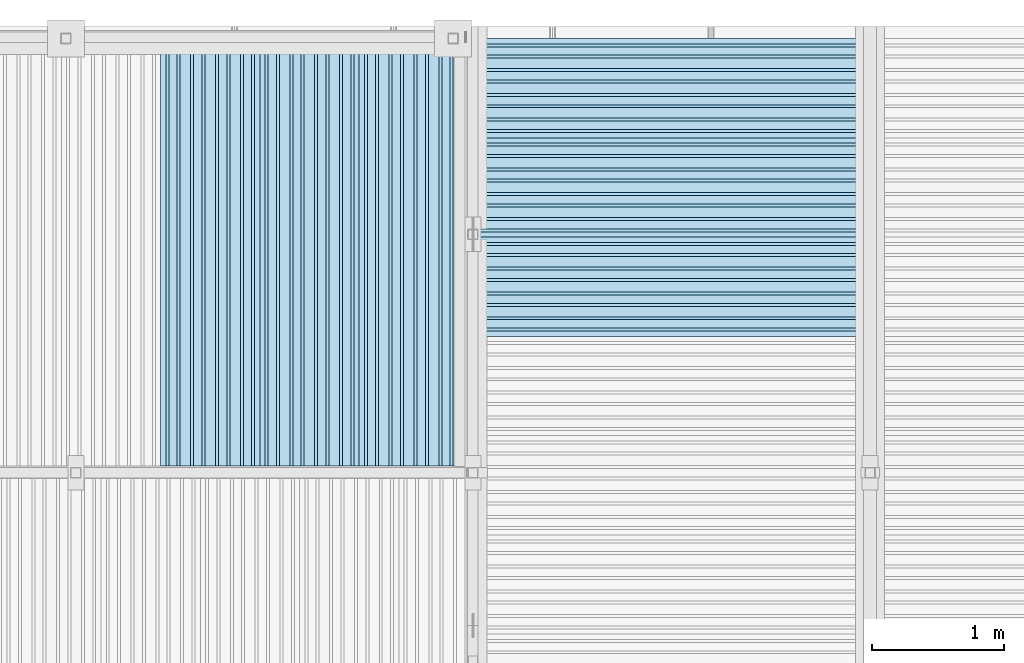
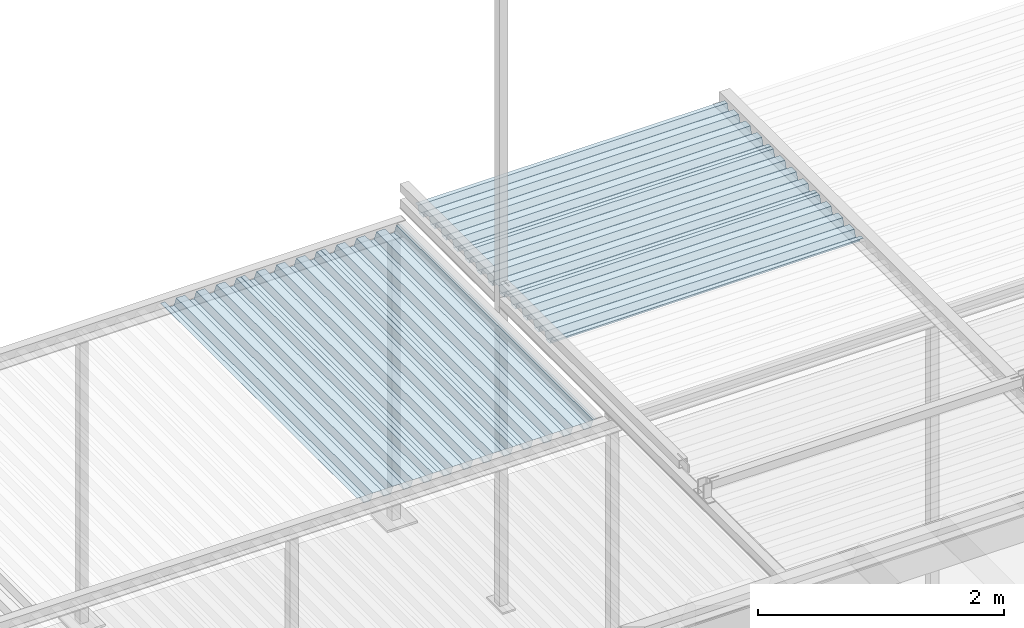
# One storey, part 85 of 98: 6 slabs.
"""IFC2X3 building model written with IfcOpenShell, lengths in millimetres."""

from ifc_helpers import new_model, entity, si_unit, converted_unit, derived_unit, direction, frame, origin_with_axes, place, context, subcontext, project, spatial, faceted_brep, material, type_object, element, save


model = new_model("IFC2X3")

# Units and contexts
model_context = context("Model", 3, precision=0.01, world=frame((0.0, 4.29681676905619e-09, 0.0)), true_north=direction((4.01073788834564e-13, 1.0)))
plan_context = context("Plan", 3, precision=0.01, world=frame((0.0, 4.29681676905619e-09, 0.0)), true_north=direction((4.01073788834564e-13, 1.0)))
body_context = subcontext(model_context, "Body", "Model", "MODEL_VIEW")
ifc_project = project(units=[converted_unit("PLANEANGLEUNIT", "DEGREE", entity("IfcPositiveLengthMeasure", 0.0174532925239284), si_unit("PLANEANGLEUNIT", "RADIAN"), dimensions=[0, 0, 0, 0, 0, 0, 0]), si_unit("AREAUNIT", "SQUARE_METRE"), si_unit("LENGTHUNIT", "METRE", prefix="MILLI"), si_unit("MASSUNIT", "GRAM", prefix="KILO"), si_unit("POWERUNIT", "WATT"), si_unit("PRESSUREUNIT", "PASCAL"), si_unit("FORCEUNIT", "NEWTON", prefix="KILO"), si_unit("ELECTRICCURRENTUNIT", "AMPERE"), si_unit("THERMODYNAMICTEMPERATUREUNIT", "DEGREE_CELSIUS"), si_unit("TIMEUNIT", "SECOND"), si_unit("VOLUMEUNIT", "CUBIC_METRE"), derived_unit("LINEARVELOCITYUNIT", [(si_unit("LENGTHUNIT", "METRE"), 1), (si_unit("TIMEUNIT", "SECOND"), -1)]), derived_unit("VOLUMETRICFLOWRATEUNIT", [(si_unit("VOLUMEUNIT", "CUBIC_METRE"), 1), (si_unit("TIMEUNIT", "SECOND"), -1)]), derived_unit("THERMALTRANSMITTANCEUNIT", [(si_unit("POWERUNIT", "WATT"), 1), (si_unit("THERMODYNAMICTEMPERATUREUNIT", "KELVIN"), -1), (si_unit("AREAUNIT", "SQUARE_METRE"), -1)])], contexts=[model_context, plan_context])

# Site, building, storey
site_placement = place(None, frame((0.0, -4.29681676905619e-09, 0.0), z_axis=(0.0, 0.0, 1.0), x_axis=(1.0, 0.0, 0.0)))
site = spatial("IfcSite", under=ifc_project, at=site_placement, Name="Gardermoen", CompositionType="ELEMENT")
building_placement = place(site_placement, frame((0.0, 4.29681676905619e-09, 0.0), z_axis=(0.0, 0.0, 1.0), x_axis=(1.0, 0.0, 0.0)))
building = spatial("IfcBuilding", under=site, at=building_placement, Name="TS", CompositionType="ELEMENT")
storey_placement = place(building_placement, origin_with_axes())
storey = spatial("IfcBuildingStorey", under=building, at=storey_placement, Name="D", CompositionType="ELEMENT", Elevation=0.0)

# Slabs
ifc_material = material(Name="STEEL/S355")
slab_type = type_object("IfcSlabType", Name="PLANJA70", PredefinedType="NOTDEFINED")
slab_1_placement = place(storey_placement, frame((518015.0, 417549.960071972, 206834.149718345), z_axis=(0.0, 0.0, 1.0), x_axis=(0.0, 1.0, 0.0)))
element("IfcSlab", 1, at=slab_1_placement, inside=storey, type_object=slab_type, material=ifc_material, Name="STÅLTAK", ObjectType="PLANJA70", PredefinedType="FLOOR", context=body_context, shape_type="Brep", body=[
    faceted_brep([(0.0, 375.0, 34.1500015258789), (0.0, 335.299987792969, 34.1500015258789), (3189.99519654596, 335.299987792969, 34.1500015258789), (3189.99519654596, 375.0, 34.1500015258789), (0.0, 313.010681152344, -32.1500015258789), (3189.99519654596, 313.010681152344, -32.1500015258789), (0.0, 249.489303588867, -32.1500015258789), (3189.99519654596, 249.489303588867, -32.1500015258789), (0.0, 227.199996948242, 34.1500015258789), (3189.99519654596, 227.199996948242, 34.1500015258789), (0.0, 147.800003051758, 34.1500015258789), (3189.99519654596, 147.800003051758, 34.1500015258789), (0.0, 125.280120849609, -33.1500015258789), (3189.99519654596, 125.280120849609, -33.1500015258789), (0.0, 62.2198791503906, -33.1500015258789), (3189.99519654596, 62.2198791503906, -33.1500015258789), (0.0, 39.7000007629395, 34.1500015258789), (3189.99519654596, 39.7000007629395, 34.1500015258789), (0.0, -39.7000007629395, 34.1500015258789), (3189.99519654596, -39.7000007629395, 34.1500015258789), (0.0, -62.2198791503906, -33.1500015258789), (3189.99519654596, -62.2198791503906, -33.1500015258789), (0.0, -125.280120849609, -33.1500015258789), (3189.99519654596, -125.280120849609, -33.1500015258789), (0.0, -147.800003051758, 34.1500015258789), (3189.99519654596, -147.800003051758, 34.1500015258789), (0.0, -227.199996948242, 34.1500015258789), (3189.99519654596, -227.199996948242, 34.1500015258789), (0.0, -249.719879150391, -33.1500015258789), (3189.99519654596, -249.719879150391, -33.1500015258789), (0.0, -312.781188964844, -33.1500015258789), (3189.99519654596, -312.781188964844, -33.1500015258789), (0.0, -335.070495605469, 33.1500015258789), (3189.99519654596, -335.070495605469, 33.1500015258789), (0.0, -375.0, 33.1500015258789), (3189.99519654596, -375.0, 33.1500015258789), (0.0, -375.0, 32.1500015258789), (3189.99519654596, -375.0, 32.1500015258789), (0.0, -335.789306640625, 32.1500015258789), (3189.99519654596, -335.789306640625, 32.1500015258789), (0.0, -313.5, -34.1500015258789), (3189.99519654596, -313.5, -34.1500015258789), (0.0, -249.0, -34.1500015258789), (3189.99519654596, -249.0, -34.1500015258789), (0.0, -226.480117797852, 33.1500015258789), (3189.99519654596, -226.480117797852, 33.1500015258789), (0.0, -148.519882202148, 33.1500015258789), (3189.99519654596, -148.519882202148, 33.1500015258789), (0.0, -126.0, -34.1500015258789), (3189.99519654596, -126.0, -34.1500015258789), (0.0, -61.5, -34.1500015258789), (3189.99519654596, -61.5, -34.1500015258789), (0.0, -38.9801177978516, 33.1500015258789), (3189.99519654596, -38.9801177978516, 33.1500015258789), (0.0, 38.9801177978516, 33.1500015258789), (3189.99519654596, 38.9801177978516, 33.1500015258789), (0.0, 61.5, -34.1500015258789), (3189.99519654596, 61.5, -34.1500015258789), (0.0, 126.0, -34.1500015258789), (3189.99519654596, 126.0, -34.1500015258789), (0.0, 148.519882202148, 33.1500015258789), (3189.99519654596, 148.519882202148, 33.1500015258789), (0.0, 226.481185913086, 33.1500015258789), (3189.99519654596, 226.481185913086, 33.1500015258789), (0.0, 248.770492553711, -33.1500015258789), (3189.99519654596, 248.770492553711, -33.1500015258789), (0.0, 313.7294921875, -33.1500015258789), (3189.99519654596, 313.7294921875, -33.1500015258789), (0.0, 336.018798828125, 33.1500015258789), (3189.99519654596, 336.018798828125, 33.1500015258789), (0.0, 375.0, 33.1500015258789), (3189.99519654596, 375.0, 33.1500015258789)], [[[0, 1, 2, 3]], [[1, 4, 5, 2]], [[4, 6, 7, 5]], [[6, 8, 9, 7]], [[8, 10, 11, 9]], [[10, 12, 13, 11]], [[12, 14, 15, 13]], [[14, 16, 17, 15]], [[16, 18, 19, 17]], [[18, 20, 21, 19]], [[20, 22, 23, 21]], [[22, 24, 25, 23]], [[24, 26, 27, 25]], [[26, 28, 29, 27]], [[28, 30, 31, 29]], [[30, 32, 33, 31]], [[32, 34, 35, 33]], [[34, 36, 37, 35]], [[36, 38, 39, 37]], [[38, 40, 41, 39]], [[40, 42, 43, 41]], [[42, 44, 45, 43]], [[44, 46, 47, 45]], [[46, 48, 49, 47]], [[48, 50, 51, 49]], [[50, 52, 53, 51]], [[52, 54, 55, 53]], [[54, 56, 57, 55]], [[56, 58, 59, 57]], [[58, 60, 61, 59]], [[60, 62, 63, 61]], [[62, 64, 65, 63]], [[64, 66, 67, 65]], [[66, 68, 69, 67]], [[68, 70, 71, 69]], [[70, 0, 3, 71]], [[5, 7, 9, 11, 13, 15, 17, 19, 21, 23, 25, 27, 29, 31, 33, 35, 37, 39, 41, 43, 45, 47, 49, 51, 53, 55, 57, 59, 61, 63, 65, 67, 69, 71, 3, 2]], [[70, 68, 66, 64, 62, 60, 58, 56, 54, 52, 50, 48, 46, 44, 42, 40, 38, 36, 34, 32, 30, 28, 26, 24, 22, 20, 18, 16, 14, 12, 10, 8, 6, 4, 1, 0]]]),
])
slab_2_placement = place(storey_placement, frame((518765.0, 417549.960071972, 206834.149718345), z_axis=(0.0, 0.0, 1.0), x_axis=(0.0, 1.0, 0.0)))
element("IfcSlab", 2, at=slab_2_placement, inside=storey, type_object=slab_type, material=ifc_material, Name="STÅLTAK", ObjectType="PLANJA70", PredefinedType="FLOOR", context=body_context, shape_type="Brep", body=[
    faceted_brep([(0.0, 375.0, 34.1500015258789), (0.0, 335.299987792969, 34.1500015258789), (3189.99519654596, 335.299987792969, 34.1500015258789), (3189.99519654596, 375.0, 34.1500015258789), (0.0, 313.010681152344, -32.1500015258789), (3189.99519654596, 313.010681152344, -32.1500015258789), (0.0, 249.489303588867, -32.1500015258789), (3189.99519654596, 249.489303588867, -32.1500015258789), (0.0, 227.199996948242, 34.1500015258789), (3189.99519654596, 227.199996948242, 34.1500015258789), (0.0, 147.800003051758, 34.1500015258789), (3189.99519654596, 147.800003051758, 34.1500015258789), (0.0, 125.280120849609, -33.1500015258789), (3189.99519654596, 125.280120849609, -33.1500015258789), (0.0, 62.2198791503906, -33.1500015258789), (3189.99519654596, 62.2198791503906, -33.1500015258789), (0.0, 39.7000007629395, 34.1500015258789), (3189.99519654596, 39.7000007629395, 34.1500015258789), (0.0, -39.7000007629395, 34.1500015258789), (3189.99519654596, -39.7000007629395, 34.1500015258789), (0.0, -62.2198791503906, -33.1500015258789), (3189.99519654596, -62.2198791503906, -33.1500015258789), (0.0, -125.280120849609, -33.1500015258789), (3189.99519654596, -125.280120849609, -33.1500015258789), (0.0, -147.800003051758, 34.1500015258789), (3189.99519654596, -147.800003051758, 34.1500015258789), (0.0, -227.199996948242, 34.1500015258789), (3189.99519654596, -227.199996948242, 34.1500015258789), (0.0, -249.719879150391, -33.1500015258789), (3189.99519654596, -249.719879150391, -33.1500015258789), (0.0, -312.781188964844, -33.1500015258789), (3189.99519654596, -312.781188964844, -33.1500015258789), (0.0, -335.070495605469, 33.1500015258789), (3189.99519654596, -335.070495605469, 33.1500015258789), (0.0, -375.0, 33.1500015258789), (3189.99519654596, -375.0, 33.1500015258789), (0.0, -375.0, 32.1500015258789), (3189.99519654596, -375.0, 32.1500015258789), (0.0, -335.789306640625, 32.1500015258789), (3189.99519654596, -335.789306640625, 32.1500015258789), (0.0, -313.5, -34.1500015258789), (3189.99519654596, -313.5, -34.1500015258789), (0.0, -249.0, -34.1500015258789), (3189.99519654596, -249.0, -34.1500015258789), (0.0, -226.480117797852, 33.1500015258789), (3189.99519654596, -226.480117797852, 33.1500015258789), (0.0, -148.519882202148, 33.1500015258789), (3189.99519654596, -148.519882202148, 33.1500015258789), (0.0, -126.0, -34.1500015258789), (3189.99519654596, -126.0, -34.1500015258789), (0.0, -61.5, -34.1500015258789), (3189.99519654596, -61.5, -34.1500015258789), (0.0, -38.9801177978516, 33.1500015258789), (3189.99519654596, -38.9801177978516, 33.1500015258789), (0.0, 38.9801177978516, 33.1500015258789), (3189.99519654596, 38.9801177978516, 33.1500015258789), (0.0, 61.5, -34.1500015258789), (3189.99519654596, 61.5, -34.1500015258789), (0.0, 126.0, -34.1500015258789), (3189.99519654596, 126.0, -34.1500015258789), (0.0, 148.519882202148, 33.1500015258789), (3189.99519654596, 148.519882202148, 33.1500015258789), (0.0, 226.481185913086, 33.1500015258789), (3189.99519654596, 226.481185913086, 33.1500015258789), (0.0, 248.770492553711, -33.1500015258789), (3189.99519654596, 248.770492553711, -33.1500015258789), (0.0, 313.7294921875, -33.1500015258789), (3189.99519654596, 313.7294921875, -33.1500015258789), (0.0, 336.018798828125, 33.1500015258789), (3189.99519654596, 336.018798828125, 33.1500015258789), (0.0, 375.0, 33.1500015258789), (3189.99519654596, 375.0, 33.1500015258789)], [[[0, 1, 2, 3]], [[1, 4, 5, 2]], [[4, 6, 7, 5]], [[6, 8, 9, 7]], [[8, 10, 11, 9]], [[10, 12, 13, 11]], [[12, 14, 15, 13]], [[14, 16, 17, 15]], [[16, 18, 19, 17]], [[18, 20, 21, 19]], [[20, 22, 23, 21]], [[22, 24, 25, 23]], [[24, 26, 27, 25]], [[26, 28, 29, 27]], [[28, 30, 31, 29]], [[30, 32, 33, 31]], [[32, 34, 35, 33]], [[34, 36, 37, 35]], [[36, 38, 39, 37]], [[38, 40, 41, 39]], [[40, 42, 43, 41]], [[42, 44, 45, 43]], [[44, 46, 47, 45]], [[46, 48, 49, 47]], [[48, 50, 51, 49]], [[50, 52, 53, 51]], [[52, 54, 55, 53]], [[54, 56, 57, 55]], [[56, 58, 59, 57]], [[58, 60, 61, 59]], [[60, 62, 63, 61]], [[62, 64, 65, 63]], [[64, 66, 67, 65]], [[66, 68, 69, 67]], [[68, 70, 71, 69]], [[70, 0, 3, 71]], [[5, 7, 9, 11, 13, 15, 17, 19, 21, 23, 25, 27, 29, 31, 33, 35, 37, 39, 41, 43, 45, 47, 49, 51, 53, 55, 57, 59, 61, 63, 65, 67, 69, 71, 3, 2]], [[70, 68, 66, 64, 62, 60, 58, 56, 54, 52, 50, 48, 46, 44, 42, 40, 38, 36, 34, 32, 30, 28, 26, 24, 22, 20, 18, 16, 14, 12, 10, 8, 6, 4, 1, 0]]]),
])
slab_3_placement = place(storey_placement, frame((519515.0, 417549.960071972, 206834.149718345), z_axis=(0.0, 0.0, 1.0), x_axis=(0.0, 1.0, 0.0)))
element("IfcSlab", 3, at=slab_3_placement, inside=storey, type_object=slab_type, material=ifc_material, Name="STÅLTAK", ObjectType="PLANJA70", PredefinedType="FLOOR", context=body_context, shape_type="Brep", body=[
    faceted_brep([(0.0, 375.0, 34.1500015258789), (0.0, 335.299987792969, 34.1500015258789), (3189.99519654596, 335.299987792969, 34.1500015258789), (3189.99519654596, 375.0, 34.1500015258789), (0.0, 313.010681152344, -32.1500015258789), (3189.99519654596, 313.010681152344, -32.1500015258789), (0.0, 249.489303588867, -32.1500015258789), (3189.99519654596, 249.489303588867, -32.1500015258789), (0.0, 227.199996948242, 34.1500015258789), (3189.99519654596, 227.199996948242, 34.1500015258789), (0.0, 147.800003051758, 34.1500015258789), (3189.99519654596, 147.800003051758, 34.1500015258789), (0.0, 125.280120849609, -33.1500015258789), (3189.99519654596, 125.280120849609, -33.1500015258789), (0.0, 62.2198791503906, -33.1500015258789), (3189.99519654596, 62.2198791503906, -33.1500015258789), (0.0, 39.7000007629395, 34.1500015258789), (3189.99519654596, 39.7000007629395, 34.1500015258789), (0.0, -39.7000007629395, 34.1500015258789), (3189.99519654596, -39.7000007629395, 34.1500015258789), (0.0, -62.2198791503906, -33.1500015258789), (3189.99519654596, -62.2198791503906, -33.1500015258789), (0.0, -125.280120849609, -33.1500015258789), (3189.99519654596, -125.280120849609, -33.1500015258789), (0.0, -147.800003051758, 34.1500015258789), (3189.99519654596, -147.800003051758, 34.1500015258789), (0.0, -227.199996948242, 34.1500015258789), (3189.99519654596, -227.199996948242, 34.1500015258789), (0.0, -249.719879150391, -33.1500015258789), (3189.99519654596, -249.719879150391, -33.1500015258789), (0.0, -312.781188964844, -33.1500015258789), (3189.99519654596, -312.781188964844, -33.1500015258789), (0.0, -335.070495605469, 33.1500015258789), (3189.99519654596, -335.070495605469, 33.1500015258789), (0.0, -375.0, 33.1500015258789), (3189.99519654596, -375.0, 33.1500015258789), (0.0, -375.0, 32.1500015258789), (3189.99519654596, -375.0, 32.1500015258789), (0.0, -335.789306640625, 32.1500015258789), (3189.99519654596, -335.789306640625, 32.1500015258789), (0.0, -313.5, -34.1500015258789), (3189.99519654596, -313.5, -34.1500015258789), (0.0, -249.0, -34.1500015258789), (3189.99519654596, -249.0, -34.1500015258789), (0.0, -226.480117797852, 33.1500015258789), (3189.99519654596, -226.480117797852, 33.1500015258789), (0.0, -148.519882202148, 33.1500015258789), (3189.99519654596, -148.519882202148, 33.1500015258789), (0.0, -126.0, -34.1500015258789), (3189.99519654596, -126.0, -34.1500015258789), (0.0, -61.5, -34.1500015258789), (3189.99519654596, -61.5, -34.1500015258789), (0.0, -38.9801177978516, 33.1500015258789), (3189.99519654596, -38.9801177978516, 33.1500015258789), (0.0, 38.9801177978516, 33.1500015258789), (3189.99519654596, 38.9801177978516, 33.1500015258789), (0.0, 61.5, -34.1500015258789), (3189.99519654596, 61.5, -34.1500015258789), (0.0, 126.0, -34.1500015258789), (3189.99519654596, 126.0, -34.1500015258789), (0.0, 148.519882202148, 33.1500015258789), (3189.99519654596, 148.519882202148, 33.1500015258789), (0.0, 226.481185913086, 33.1500015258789), (3189.99519654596, 226.481185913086, 33.1500015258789), (0.0, 248.770492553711, -33.1500015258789), (3189.99519654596, 248.770492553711, -33.1500015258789), (0.0, 313.7294921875, -33.1500015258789), (3189.99519654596, 313.7294921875, -33.1500015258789), (0.0, 336.018798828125, 33.1500015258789), (3189.99519654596, 336.018798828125, 33.1500015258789), (0.0, 375.0, 33.1500015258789), (3189.99519654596, 375.0, 33.1500015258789)], [[[0, 1, 2, 3]], [[1, 4, 5, 2]], [[4, 6, 7, 5]], [[6, 8, 9, 7]], [[8, 10, 11, 9]], [[10, 12, 13, 11]], [[12, 14, 15, 13]], [[14, 16, 17, 15]], [[16, 18, 19, 17]], [[18, 20, 21, 19]], [[20, 22, 23, 21]], [[22, 24, 25, 23]], [[24, 26, 27, 25]], [[26, 28, 29, 27]], [[28, 30, 31, 29]], [[30, 32, 33, 31]], [[32, 34, 35, 33]], [[34, 36, 37, 35]], [[36, 38, 39, 37]], [[38, 40, 41, 39]], [[40, 42, 43, 41]], [[42, 44, 45, 43]], [[44, 46, 47, 45]], [[46, 48, 49, 47]], [[48, 50, 51, 49]], [[50, 52, 53, 51]], [[52, 54, 55, 53]], [[54, 56, 57, 55]], [[56, 58, 59, 57]], [[58, 60, 61, 59]], [[60, 62, 63, 61]], [[62, 64, 65, 63]], [[64, 66, 67, 65]], [[66, 68, 69, 67]], [[68, 70, 71, 69]], [[70, 0, 3, 71]], [[5, 7, 9, 11, 13, 15, 17, 19, 21, 23, 25, 27, 29, 31, 33, 35, 37, 39, 41, 43, 45, 47, 49, 51, 53, 55, 57, 59, 61, 63, 65, 67, 69, 71, 3, 2]], [[70, 68, 66, 64, 62, 60, 58, 56, 54, 52, 50, 48, 46, 44, 42, 40, 38, 36, 34, 32, 30, 28, 26, 24, 22, 20, 18, 16, 14, 12, 10, 8, 6, 4, 1, 0]]]),
])
slab_4_placement = place(storey_placement, frame((522950.000000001, 418904.996695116, 206958.849718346), z_axis=(0.0, 0.0, 1.0), x_axis=(-0.999999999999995, -9.99999902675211e-08, 0.0)))
element("IfcSlab", 4, at=slab_4_placement, inside=storey, type_object=slab_type, material=ifc_material, Name="STÅLTAK", ObjectType="PLANJA70", PredefinedType="FLOOR", context=body_context, shape_type="Brep", body=[
    faceted_brep([(0.0, 375.0, 34.1500015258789), (0.0, 335.299987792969, 34.1500015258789), (2900.00079747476, 335.299987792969, 34.1500015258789), (2900.00079747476, 375.0, 34.1500015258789), (0.0, 313.010681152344, -32.1500015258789), (2900.00079747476, 313.010681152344, -32.1500015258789), (0.0, 249.489303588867, -32.1500015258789), (2900.00079747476, 249.489303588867, -32.1500015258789), (0.0, 227.199996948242, 34.1500015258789), (2900.00079747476, 227.199996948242, 34.1500015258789), (0.0, 147.800003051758, 34.1500015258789), (2900.00079747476, 147.800003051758, 34.1500015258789), (0.0, 125.280120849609, -33.1500015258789), (2900.00079747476, 125.280120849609, -33.1500015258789), (0.0, 62.2198791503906, -33.1500015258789), (2900.00079747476, 62.2198791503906, -33.1500015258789), (0.0, 39.7000007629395, 34.1500015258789), (2900.00079747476, 39.7000007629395, 34.1500015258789), (0.0, -39.7000007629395, 34.1500015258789), (2900.00079747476, -39.7000007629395, 34.1500015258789), (0.0, -62.2198791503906, -33.1500015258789), (2900.00079747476, -62.2198791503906, -33.1500015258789), (0.0, -125.280120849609, -33.1500015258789), (2900.00079747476, -125.280120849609, -33.1500015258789), (0.0, -147.800003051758, 34.1500015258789), (2900.00079747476, -147.800003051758, 34.1500015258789), (0.0, -227.199996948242, 34.1500015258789), (2900.00079747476, -227.199996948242, 34.1500015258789), (0.0, -249.719879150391, -33.1500015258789), (2900.00079747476, -249.719879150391, -33.1500015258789), (0.0, -312.781188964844, -33.1500015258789), (2900.00079747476, -312.781188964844, -33.1500015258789), (0.0, -335.070495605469, 33.1500015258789), (2900.00079747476, -335.070495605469, 33.1500015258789), (0.0, -375.0, 33.1500015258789), (2900.00079747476, -375.0, 33.1500015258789), (0.0, -375.0, 32.1500015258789), (2900.00079747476, -375.0, 32.1500015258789), (0.0, -335.789306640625, 32.1500015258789), (2900.00079747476, -335.789306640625, 32.1500015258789), (0.0, -313.5, -34.1500015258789), (2900.00079747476, -313.5, -34.1500015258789), (0.0, -249.0, -34.1500015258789), (2900.00079747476, -249.0, -34.1500015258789), (0.0, -226.480117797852, 33.1500015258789), (2900.00079747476, -226.480117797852, 33.1500015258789), (0.0, -148.519882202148, 33.1500015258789), (2900.00079747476, -148.519882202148, 33.1500015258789), (0.0, -126.0, -34.1500015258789), (2900.00079747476, -126.0, -34.1500015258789), (0.0, -61.5, -34.1500015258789), (2900.00079747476, -61.5, -34.1500015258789), (0.0, -38.9801177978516, 33.1500015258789), (2900.00079747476, -38.9801177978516, 33.1500015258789), (0.0, 38.9801177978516, 33.1500015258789), (2900.00079747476, 38.9801177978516, 33.1500015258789), (0.0, 61.5, -34.1500015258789), (2900.00079747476, 61.5, -34.1500015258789), (0.0, 126.0, -34.1500015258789), (2900.00079747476, 126.0, -34.1500015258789), (0.0, 148.519882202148, 33.1500015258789), (2900.00079747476, 148.519882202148, 33.1500015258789), (0.0, 226.481185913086, 33.1500015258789), (2900.00079747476, 226.481185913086, 33.1500015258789), (0.0, 248.770492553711, -33.1500015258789), (2900.00079747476, 248.770492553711, -33.1500015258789), (0.0, 313.7294921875, -33.1500015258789), (2900.00079747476, 313.7294921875, -33.1500015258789), (0.0, 336.018798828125, 33.1500015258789), (2900.00079747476, 336.018798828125, 33.1500015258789), (0.0, 375.0, 33.1500015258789), (2900.00079747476, 375.0, 33.1500015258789)], [[[0, 1, 2, 3]], [[1, 4, 5, 2]], [[4, 6, 7, 5]], [[6, 8, 9, 7]], [[8, 10, 11, 9]], [[10, 12, 13, 11]], [[12, 14, 15, 13]], [[14, 16, 17, 15]], [[16, 18, 19, 17]], [[18, 20, 21, 19]], [[22, 23, 21, 20]], [[22, 24, 25, 23]], [[24, 26, 27, 25]], [[26, 28, 29, 27]], [[28, 30, 31, 29]], [[30, 32, 33, 31]], [[32, 34, 35, 33]], [[34, 36, 37, 35]], [[36, 38, 39, 37]], [[38, 40, 41, 39]], [[40, 42, 43, 41]], [[42, 44, 45, 43]], [[44, 46, 47, 45]], [[46, 48, 49, 47]], [[48, 50, 51, 49]], [[50, 52, 53, 51]], [[52, 54, 55, 53]], [[54, 56, 57, 55]], [[56, 58, 59, 57]], [[58, 60, 61, 59]], [[60, 62, 63, 61]], [[62, 64, 65, 63]], [[64, 66, 67, 65]], [[66, 68, 69, 67]], [[68, 70, 71, 69]], [[70, 0, 3, 71]], [[5, 7, 9, 11, 13, 15, 17, 19, 21, 23, 25, 27, 29, 31, 33, 35, 37, 39, 41, 43, 45, 47, 49, 51, 53, 55, 57, 59, 61, 63, 65, 67, 69, 71, 3, 2]], [[70, 68, 66, 64, 62, 60, 58, 56, 54, 52, 50, 48, 46, 44, 42, 40, 38, 36, 34, 32, 30, 28, 26, 24, 22, 20, 18, 16, 14, 12, 10, 8, 6, 4, 1, 0]]]),
])
slab_5_placement = place(storey_placement, frame((522950.000000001, 419654.996695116, 206958.849718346), z_axis=(0.0, 0.0, 1.0), x_axis=(-0.999999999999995, -9.99999902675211e-08, 0.0)))
element("IfcSlab", 5, at=slab_5_placement, inside=storey, type_object=slab_type, material=ifc_material, Name="STÅLTAK", ObjectType="PLANJA70", PredefinedType="FLOOR", context=body_context, shape_type="Brep", body=[
    faceted_brep([(0.0, 375.0, 34.1500015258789), (0.0, 335.299987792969, 34.1500015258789), (2900.00079747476, 335.299987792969, 34.1500015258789), (2900.00079747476, 375.0, 34.1500015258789), (0.0, 313.010681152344, -32.1500015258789), (2900.00079747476, 313.010681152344, -32.1500015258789), (0.0, 249.489303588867, -32.1500015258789), (2900.00079747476, 249.489303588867, -32.1500015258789), (0.0, 227.199996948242, 34.1500015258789), (2900.00079747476, 227.199996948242, 34.1500015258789), (0.0, 147.800003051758, 34.1500015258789), (2900.00079747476, 147.800003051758, 34.1500015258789), (0.0, 125.280120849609, -33.1500015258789), (2900.00079747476, 125.280120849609, -33.1500015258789), (0.0, 62.2198791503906, -33.1500015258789), (2900.00079747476, 62.2198791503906, -33.1500015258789), (0.0, 39.7000007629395, 34.1500015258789), (2900.00079747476, 39.7000007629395, 34.1500015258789), (0.0, -39.7000007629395, 34.1500015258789), (2900.00079747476, -39.7000007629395, 34.1500015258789), (0.0, -62.2198791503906, -33.1500015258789), (2900.00079747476, -62.2198791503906, -33.1500015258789), (0.0, -125.280120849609, -33.1500015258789), (2900.00079747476, -125.280120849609, -33.1500015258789), (0.0, -147.800003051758, 34.1500015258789), (2900.00079747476, -147.800003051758, 34.1500015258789), (0.0, -227.199996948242, 34.1500015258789), (2900.00079747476, -227.199996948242, 34.1500015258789), (0.0, -249.719879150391, -33.1500015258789), (2900.00079747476, -249.719879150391, -33.1500015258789), (0.0, -312.781188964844, -33.1500015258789), (2900.00079747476, -312.781188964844, -33.1500015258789), (0.0, -335.070495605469, 33.1500015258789), (2900.00079747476, -335.070495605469, 33.1500015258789), (0.0, -375.0, 33.1500015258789), (2900.00079747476, -375.0, 33.1500015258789), (0.0, -375.0, 32.1500015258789), (2900.00079747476, -375.0, 32.1500015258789), (0.0, -335.789306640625, 32.1500015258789), (2900.00079747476, -335.789306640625, 32.1500015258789), (0.0, -313.5, -34.1500015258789), (2900.00079747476, -313.5, -34.1500015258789), (0.0, -249.0, -34.1500015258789), (2900.00079747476, -249.0, -34.1500015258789), (0.0, -226.480117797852, 33.1500015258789), (2900.00079747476, -226.480117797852, 33.1500015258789), (0.0, -148.519882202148, 33.1500015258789), (2900.00079747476, -148.519882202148, 33.1500015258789), (0.0, -126.0, -34.1500015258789), (2900.00079747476, -126.0, -34.1500015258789), (0.0, -61.5, -34.1500015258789), (2900.00079747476, -61.5, -34.1500015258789), (0.0, -38.9801177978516, 33.1500015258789), (2900.00079747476, -38.9801177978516, 33.1500015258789), (0.0, 38.9801177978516, 33.1500015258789), (2900.00079747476, 38.9801177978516, 33.1500015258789), (0.0, 61.5, -34.1500015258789), (2900.00079747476, 61.5, -34.1500015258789), (0.0, 126.0, -34.1500015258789), (2900.00079747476, 126.0, -34.1500015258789), (0.0, 148.519882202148, 33.1500015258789), (2900.00079747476, 148.519882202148, 33.1500015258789), (0.0, 226.481185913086, 33.1500015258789), (2900.00079747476, 226.481185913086, 33.1500015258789), (0.0, 248.770492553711, -33.1500015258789), (2900.00079747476, 248.770492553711, -33.1500015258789), (0.0, 313.7294921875, -33.1500015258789), (2900.00079747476, 313.7294921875, -33.1500015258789), (0.0, 336.018798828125, 33.1500015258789), (2900.00079747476, 336.018798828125, 33.1500015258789), (0.0, 375.0, 33.1500015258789), (2900.00079747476, 375.0, 33.1500015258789)], [[[0, 1, 2, 3]], [[1, 4, 5, 2]], [[4, 6, 7, 5]], [[6, 8, 9, 7]], [[8, 10, 11, 9]], [[10, 12, 13, 11]], [[12, 14, 15, 13]], [[14, 16, 17, 15]], [[16, 18, 19, 17]], [[18, 20, 21, 19]], [[22, 23, 21, 20]], [[22, 24, 25, 23]], [[24, 26, 27, 25]], [[26, 28, 29, 27]], [[28, 30, 31, 29]], [[30, 32, 33, 31]], [[32, 34, 35, 33]], [[34, 36, 37, 35]], [[36, 38, 39, 37]], [[38, 40, 41, 39]], [[40, 42, 43, 41]], [[42, 44, 45, 43]], [[44, 46, 47, 45]], [[46, 48, 49, 47]], [[48, 50, 51, 49]], [[50, 52, 53, 51]], [[52, 54, 55, 53]], [[54, 56, 57, 55]], [[56, 58, 59, 57]], [[58, 60, 61, 59]], [[60, 62, 63, 61]], [[62, 64, 65, 63]], [[64, 66, 67, 65]], [[66, 68, 69, 67]], [[68, 70, 71, 69]], [[70, 0, 3, 71]], [[5, 7, 9, 11, 13, 15, 17, 19, 21, 23, 25, 27, 29, 31, 33, 35, 37, 39, 41, 43, 45, 47, 49, 51, 53, 55, 57, 59, 61, 63, 65, 67, 69, 71, 3, 2]], [[70, 68, 66, 64, 62, 60, 58, 56, 54, 52, 50, 48, 46, 44, 42, 40, 38, 36, 34, 32, 30, 28, 26, 24, 22, 20, 18, 16, 14, 12, 10, 8, 6, 4, 1, 0]]]),
])
slab_6_placement = place(storey_placement, frame((522950.000000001, 420404.996695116, 206958.849718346), z_axis=(0.0, 0.0, 1.0), x_axis=(-0.999999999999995, -9.99999902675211e-08, 0.0)))
element("IfcSlab", 6, at=slab_6_placement, inside=storey, type_object=slab_type, material=ifc_material, Name="STÅLTAK", ObjectType="PLANJA70", PredefinedType="FLOOR", context=body_context, shape_type="Brep", body=[
    faceted_brep([(0.0, 375.0, 34.1500015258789), (0.0, 335.299987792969, 34.1500015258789), (2900.00079747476, 335.299987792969, 34.1500015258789), (2900.00079747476, 375.0, 34.1500015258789), (0.0, 313.010681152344, -32.1500015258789), (2900.00079747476, 313.010681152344, -32.1500015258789), (0.0, 249.489303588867, -32.1500015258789), (2900.00079747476, 249.489303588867, -32.1500015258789), (0.0, 227.199996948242, 34.1500015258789), (2900.00079747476, 227.199996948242, 34.1500015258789), (0.0, 147.800003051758, 34.1500015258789), (2900.00079747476, 147.800003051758, 34.1500015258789), (0.0, 125.280120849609, -33.1500015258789), (2900.00079747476, 125.280120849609, -33.1500015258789), (0.0, 62.2198791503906, -33.1500015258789), (2900.00079747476, 62.2198791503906, -33.1500015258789), (0.0, 39.7000007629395, 34.1500015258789), (2900.00079747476, 39.7000007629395, 34.1500015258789), (0.0, -39.7000007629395, 34.1500015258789), (2900.00079747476, -39.7000007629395, 34.1500015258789), (0.0, -62.2198791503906, -33.1500015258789), (2900.00079747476, -62.2198791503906, -33.1500015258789), (0.0, -125.280120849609, -33.1500015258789), (2900.00079747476, -125.280120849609, -33.1500015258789), (0.0, -147.800003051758, 34.1500015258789), (2900.00079747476, -147.800003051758, 34.1500015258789), (0.0, -227.199996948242, 34.1500015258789), (2900.00079747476, -227.199996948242, 34.1500015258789), (0.0, -249.719879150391, -33.1500015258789), (2900.00079747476, -249.719879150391, -33.1500015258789), (0.0, -312.781188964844, -33.1500015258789), (2900.00079747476, -312.781188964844, -33.1500015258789), (0.0, -335.070495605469, 33.1500015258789), (2900.00079747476, -335.070495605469, 33.1500015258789), (0.0, -375.0, 33.1500015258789), (2900.00079747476, -375.0, 33.1500015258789), (0.0, -375.0, 32.1500015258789), (2900.00079747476, -375.0, 32.1500015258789), (0.0, -335.789306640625, 32.1500015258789), (2900.00079747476, -335.789306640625, 32.1500015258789), (0.0, -313.5, -34.1500015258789), (2900.00079747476, -313.5, -34.1500015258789), (0.0, -249.0, -34.1500015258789), (2900.00079747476, -249.0, -34.1500015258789), (0.0, -226.480117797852, 33.1500015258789), (2900.00079747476, -226.480117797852, 33.1500015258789), (0.0, -148.519882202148, 33.1500015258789), (2900.00079747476, -148.519882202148, 33.1500015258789), (0.0, -126.0, -34.1500015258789), (2900.00079747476, -126.0, -34.1500015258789), (0.0, -61.5, -34.1500015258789), (2900.00079747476, -61.5, -34.1500015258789), (0.0, -38.9801177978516, 33.1500015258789), (2900.00079747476, -38.9801177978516, 33.1500015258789), (0.0, 38.9801177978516, 33.1500015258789), (2900.00079747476, 38.9801177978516, 33.1500015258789), (0.0, 61.5, -34.1500015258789), (2900.00079747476, 61.5, -34.1500015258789), (0.0, 126.0, -34.1500015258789), (2900.00079747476, 126.0, -34.1500015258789), (0.0, 148.519882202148, 33.1500015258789), (2900.00079747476, 148.519882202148, 33.1500015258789), (0.0, 226.481185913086, 33.1500015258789), (2900.00079747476, 226.481185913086, 33.1500015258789), (0.0, 248.770492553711, -33.1500015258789), (2900.00079747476, 248.770492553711, -33.1500015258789), (0.0, 313.7294921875, -33.1500015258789), (2900.00079747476, 313.7294921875, -33.1500015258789), (0.0, 336.018798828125, 33.1500015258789), (2900.00079747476, 336.018798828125, 33.1500015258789), (0.0, 375.0, 33.1500015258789), (2900.00079747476, 375.0, 33.1500015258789)], [[[0, 1, 2, 3]], [[1, 4, 5, 2]], [[4, 6, 7, 5]], [[6, 8, 9, 7]], [[8, 10, 11, 9]], [[10, 12, 13, 11]], [[12, 14, 15, 13]], [[14, 16, 17, 15]], [[16, 18, 19, 17]], [[18, 20, 21, 19]], [[22, 23, 21, 20]], [[22, 24, 25, 23]], [[24, 26, 27, 25]], [[26, 28, 29, 27]], [[28, 30, 31, 29]], [[30, 32, 33, 31]], [[32, 34, 35, 33]], [[34, 36, 37, 35]], [[36, 38, 39, 37]], [[38, 40, 41, 39]], [[40, 42, 43, 41]], [[42, 44, 45, 43]], [[44, 46, 47, 45]], [[46, 48, 49, 47]], [[48, 50, 51, 49]], [[50, 52, 53, 51]], [[52, 54, 55, 53]], [[54, 56, 57, 55]], [[56, 58, 59, 57]], [[58, 60, 61, 59]], [[60, 62, 63, 61]], [[62, 64, 65, 63]], [[64, 66, 67, 65]], [[66, 68, 69, 67]], [[68, 70, 71, 69]], [[70, 0, 3, 71]], [[5, 7, 9, 11, 13, 15, 17, 19, 21, 23, 25, 27, 29, 31, 33, 35, 37, 39, 41, 43, 45, 47, 49, 51, 53, 55, 57, 59, 61, 63, 65, 67, 69, 71, 3, 2]], [[70, 68, 66, 64, 62, 60, 58, 56, 54, 52, 50, 48, 46, 44, 42, 40, 38, 36, 34, 32, 30, 28, 26, 24, 22, 20, 18, 16, 14, 12, 10, 8, 6, 4, 1, 0]]]),
])

save(model, "model.ifc")
